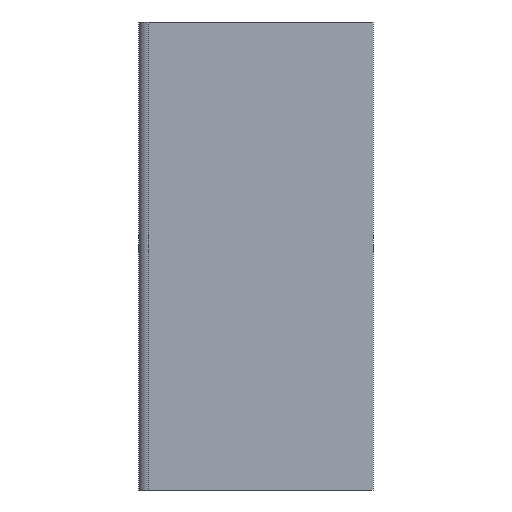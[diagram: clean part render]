
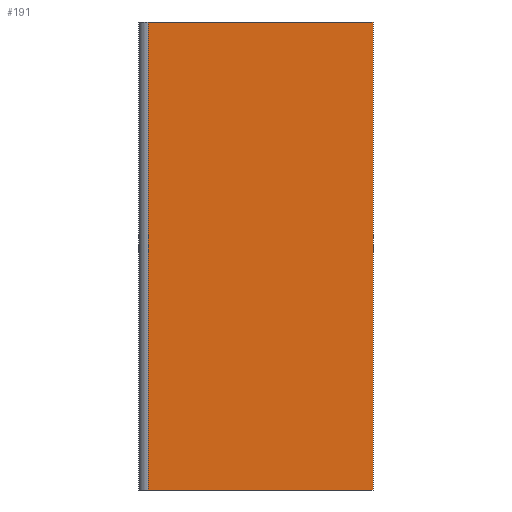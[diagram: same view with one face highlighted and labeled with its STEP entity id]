
A CAD part, left-side view. The second image highlights one B-rep face of the part: STEP entity #191.
In plain terms, the highlighted planar face has unit normal (-1, 0, 0).
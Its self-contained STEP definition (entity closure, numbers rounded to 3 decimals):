
#1 = EDGE_LOOP ( 'NONE', ( #5449, #2991, #2802, #2695 ) ) ;
#191 = ADVANCED_FACE ( 'NONE', ( #3423 ), #3424, .F. ) ;
#1232 = CARTESIAN_POINT ( 'NONE',  ( -100., 24., 50. ) ) ;
#1315 = LINE ( 'NONE', #1318, #1319 ) ;
#1318 = CARTESIAN_POINT ( 'NONE',  ( -100., 24., 50. ) ) ;
#1319 = VECTOR ( 'NONE', #1320, 1000. ) ;
#1320 = DIRECTION ( 'NONE',  ( 0., 0., -1. ) ) ;
#1933 = VERTEX_POINT ( 'NONE', #5787 ) ;
#1958 = EDGE_CURVE ( 'NONE', #2387, #1933, #5903, .T. ) ;
#2293 = VERTEX_POINT ( 'NONE', #1232 ) ;
#2310 = EDGE_CURVE ( 'NONE', #2293, #2387, #1315, .T. ) ;
#2387 = VERTEX_POINT ( 'NONE', #5137 ) ;
#2695 = ORIENTED_EDGE ( 'NONE', *, *, #2310, .T. ) ;
#2751 = EDGE_CURVE ( 'NONE', #2293, #2924, #4283, .T. ) ;
#2802 = ORIENTED_EDGE ( 'NONE', *, *, #2751, .F. ) ;
#2924 = VERTEX_POINT ( 'NONE', #4924 ) ;
#2950 = EDGE_CURVE ( 'NONE', #2924, #1933, #5120, .T. ) ;
#2991 = ORIENTED_EDGE ( 'NONE', *, *, #2950, .F. ) ;
#3423 = FACE_OUTER_BOUND ( 'NONE', #1, .T. ) ;
#3424 = PLANE ( 'NONE',  #3425 ) ;
#3425 = AXIS2_PLACEMENT_3D ( 'NONE', #3426, #3427, #3428 ) ;
#3426 = CARTESIAN_POINT ( 'NONE',  ( -100., 0., 50. ) ) ;
#3427 = DIRECTION ( 'NONE',  ( 1., 0., 0. ) ) ;
#3428 = DIRECTION ( 'NONE',  ( 0., 0., -1. ) ) ;
#4283 = LINE ( 'NONE', #4284, #4285 ) ;
#4284 = CARTESIAN_POINT ( 'NONE',  ( -100., 0., 50. ) ) ;
#4285 = VECTOR ( 'NONE', #4286, 1000. ) ;
#4286 = DIRECTION ( 'NONE',  ( 0., -1., 0. ) ) ;
#4924 = CARTESIAN_POINT ( 'NONE',  ( -100., 0., 50. ) ) ;
#5120 = LINE ( 'NONE', #5121, #5122 ) ;
#5121 = CARTESIAN_POINT ( 'NONE',  ( -100., 0., 50. ) ) ;
#5122 = VECTOR ( 'NONE', #5123, 1000. ) ;
#5123 = DIRECTION ( 'NONE',  ( 0., 0., -1. ) ) ;
#5137 = CARTESIAN_POINT ( 'NONE',  ( -100., 24., 0. ) ) ;
#5449 = ORIENTED_EDGE ( 'NONE', *, *, #1958, .T. ) ;
#5787 = CARTESIAN_POINT ( 'NONE',  ( -100., 0., 0. ) ) ;
#5903 = LINE ( 'NONE', #5904, #5905 ) ;
#5904 = CARTESIAN_POINT ( 'NONE',  ( -100., 0., 0. ) ) ;
#5905 = VECTOR ( 'NONE', #5906, 1000. ) ;
#5906 = DIRECTION ( 'NONE',  ( 0., -1., 0. ) ) ;
